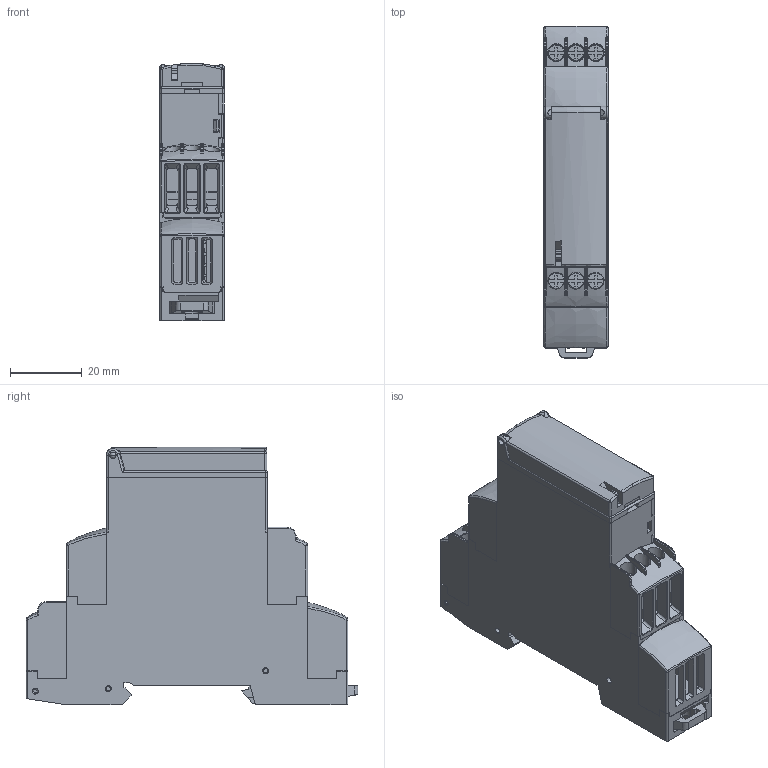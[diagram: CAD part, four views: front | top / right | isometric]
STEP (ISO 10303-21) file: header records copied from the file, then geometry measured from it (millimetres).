
FILE_DESCRIPTION((''),'2;1');
FILE_NAME('RM17JA12M7-3D_ASM','2025-10-28T11:09:54',('SESA523511'),('Schneider-Electric'),'CREO PARAMETRIC BY PTC INC, 2022484','CREO PARAMETRIC BY PTC INC, 2022484','');
FILE_SCHEMA(('AP242_MANAGED_MODEL_BASED_3D_ENGINEERING_MIM_LF { 1 0 10303 442 1 1 4 }'));
Length unit declared in the file: millimetre
Products named in the file (27): 02011052_86; 02010929_79; BORNIER175_1_79; BORNIER175_BAS_1_79; BORGNE_1_79; LFR1_COSSE_80; LFR1_COSSE_COURTE_79; LFR1_COSSE_LONGUE2_79; LFR1_COSSE_PLIEE_79; LFR1_RESSORT_79; GRT2_GL35_79; 02011054_79; DE02010755FR_79; NHA9713401_70; LFR1_VIS_79; RM17TE00_ASM_ASM_78_ASM; PHA6254203_A65_01_ASM_78; ASSEMBLY_ASM_45; CRE2512-FZ-R005E-2_ASM_45_ASM; TELEMECANIQUE_14; COMMUT_TELE_14; BQT3022503_A65_00_10; BQT3022503_A65_00_ASM_10_ASM; RM17JA22_VB_2; RM17JA22_VB_ASM_2_ASM; RM17TE00_ASM_81_ASM; RM17JA12M7-3D_ASM
Assembly tree (42 placements, depth 4):
  RM17JA12M7-3D_ASM
    RM17TE00_ASM_81_ASM
      RM17TE00_ASM_ASM_78_ASM
        02011052_86
        02010929_79
        BORNIER175_1_79
        BORNIER175_BAS_1_79
        BORGNE_1_79  x2
        LFR1_COSSE_80  x3
        LFR1_COSSE_COURTE_79
        LFR1_COSSE_LONGUE2_79
        LFR1_COSSE_PLIEE_79
        LFR1_RESSORT_79
        GRT2_GL35_79  x2
        02011054_79
        DE02010755FR_79
        NHA9713401_70  x6
        LFR1_VIS_79  x6
      PHA6254203_A65_01_ASM_78
      CRE2512-FZ-R005E-2_ASM_45_ASM
        ASSEMBLY_ASM_45
      TELEMECANIQUE_14  x3
      COMMUT_TELE_14
      BQT3022503_A65_00_ASM_10_ASM
        BQT3022503_A65_00_10
      RM17JA22_VB_ASM_2_ASM
        RM17JA22_VB_2
Bounding box: 17.9 x 92.8 x 72 mm (x, y, z)
Volume: 33696.5 mm3; surface area: 53303.9 mm2
Topology: 35 solids, 35 shells, 3531 faces, 10030 edges, 6624 vertices
Faces by surface type: plane 2419, cylinder 686, cone 201, torus 106, bspline 97, sphere 22
Entity records: 94906 total; most frequent: CARTESIAN_POINT 23292, ORIENTED_EDGE 15098, DIRECTION 13982, EDGE_CURVE 7549, VECTOR 5652, LINE 5652, VERTEX_POINT 4993, AXIS2_PLACEMENT_3D 4165
